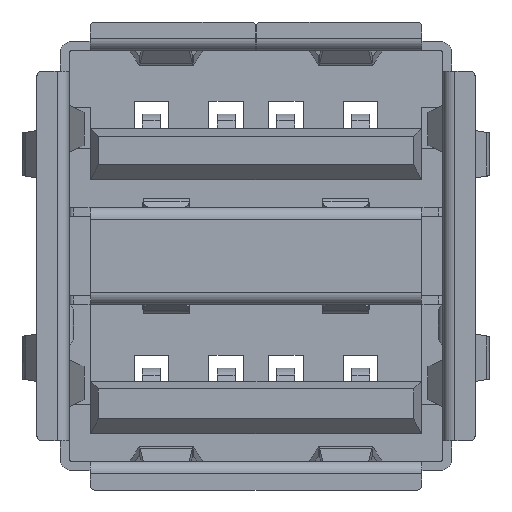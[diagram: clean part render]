
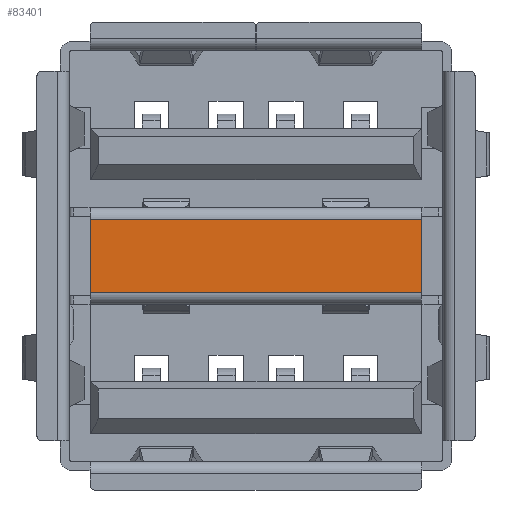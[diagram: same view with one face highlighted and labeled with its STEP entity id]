
A CAD part, front view. The second image highlights one B-rep face of the part: STEP entity #83401.
In plain terms, the highlighted planar face has unit normal (0, -1, 0).
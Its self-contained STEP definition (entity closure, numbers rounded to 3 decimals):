
#70532 = PLANE('',#70533);
#70533 = AXIS2_PLACEMENT_3D('',#70534,#70535,#70536);
#70534 = CARTESIAN_POINT('',(-5.525,-7.7,-1.325));
#70535 = DIRECTION('',(-1.,0.,0.));
#70536 = DIRECTION('',(0.,1.,0.));
#70560 = CYLINDRICAL_SURFACE('',#70561,0.4);
#70561 = AXIS2_PLACEMENT_3D('',#70562,#70563,#70564);
#70562 = CARTESIAN_POINT('',(-5.525,-7.6,1.225));
#70563 = DIRECTION('',(-1.,0.,0.));
#70564 = DIRECTION('',(0.,0.,-1.));
#70588 = PLANE('',#70589);
#70589 = AXIS2_PLACEMENT_3D('',#70590,#70591,#70592);
#70590 = CARTESIAN_POINT('',(5.525,-7.6,-1.225));
#70591 = DIRECTION('',(1.,0.,0.));
#70592 = DIRECTION('',(0.,1.,0.));
#74712 = VERTEX_POINT('',#74713);
#74713 = CARTESIAN_POINT('',(-5.525,-8.,-1.225));
#74732 = CYLINDRICAL_SURFACE('',#74733,0.4);
#74733 = AXIS2_PLACEMENT_3D('',#74734,#74735,#74736);
#74734 = CARTESIAN_POINT('',(-5.525,-7.6,-1.225));
#74735 = DIRECTION('',(-1.,0.,0.));
#74736 = DIRECTION('',(0.,0.,-1.));
#74744 = EDGE_CURVE('',#74745,#74712,#74747,.T.);
#74745 = VERTEX_POINT('',#74746);
#74746 = CARTESIAN_POINT('',(-5.525,-8.,1.225));
#74747 = SURFACE_CURVE('',#74748,(#74752,#74759),.PCURVE_S1.);
#74748 = LINE('',#74749,#74750);
#74749 = CARTESIAN_POINT('',(-5.525,-8.,1.325));
#74750 = VECTOR('',#74751,1.);
#74751 = DIRECTION('',(0.,0.,-1.));
#74752 = PCURVE('',#70532,#74753);
#74753 = DEFINITIONAL_REPRESENTATION('',(#74754),#74758);
#74754 = LINE('',#74755,#74756);
#74755 = CARTESIAN_POINT('',(-0.3,-2.65));
#74756 = VECTOR('',#74757,1.);
#74757 = DIRECTION('',(0.,1.));
#74758 = ( GEOMETRIC_REPRESENTATION_CONTEXT(2) 
PARAMETRIC_REPRESENTATION_CONTEXT() REPRESENTATION_CONTEXT('2D SPACE',''
  ) );
#74759 = PCURVE('',#74760,#74765);
#74760 = PLANE('',#74761);
#74761 = AXIS2_PLACEMENT_3D('',#74762,#74763,#74764);
#74762 = CARTESIAN_POINT('',(-5.525,-8.,1.325));
#74763 = DIRECTION('',(0.,-1.,0.));
#74764 = DIRECTION('',(0.,0.,-1.));
#74765 = DEFINITIONAL_REPRESENTATION('',(#74766),#74770);
#74766 = LINE('',#74767,#74768);
#74767 = CARTESIAN_POINT('',(0.,0.));
#74768 = VECTOR('',#74769,1.);
#74769 = DIRECTION('',(1.,0.));
#74770 = ( GEOMETRIC_REPRESENTATION_CONTEXT(2) 
PARAMETRIC_REPRESENTATION_CONTEXT() REPRESENTATION_CONTEXT('2D SPACE',''
  ) );
#80793 = VERTEX_POINT('',#80794);
#80794 = CARTESIAN_POINT('',(5.525,-8.,1.225));
#80816 = EDGE_CURVE('',#80793,#80817,#80819,.T.);
#80817 = VERTEX_POINT('',#80818);
#80818 = CARTESIAN_POINT('',(5.525,-8.,-1.225));
#80819 = SURFACE_CURVE('',#80820,(#80824,#80831),.PCURVE_S1.);
#80820 = LINE('',#80821,#80822);
#80821 = CARTESIAN_POINT('',(5.525,-8.,1.325));
#80822 = VECTOR('',#80823,1.);
#80823 = DIRECTION('',(0.,0.,-1.));
#80824 = PCURVE('',#70588,#80825);
#80825 = DEFINITIONAL_REPRESENTATION('',(#80826),#80830);
#80826 = LINE('',#80827,#80828);
#80827 = CARTESIAN_POINT('',(-0.4,2.55));
#80828 = VECTOR('',#80829,1.);
#80829 = DIRECTION('',(0.,-1.));
#80830 = ( GEOMETRIC_REPRESENTATION_CONTEXT(2) 
PARAMETRIC_REPRESENTATION_CONTEXT() REPRESENTATION_CONTEXT('2D SPACE',''
  ) );
#80831 = PCURVE('',#74760,#80832);
#80832 = DEFINITIONAL_REPRESENTATION('',(#80833),#80837);
#80833 = LINE('',#80834,#80835);
#80834 = CARTESIAN_POINT('',(0.,11.05));
#80835 = VECTOR('',#80836,1.);
#80836 = DIRECTION('',(1.,0.));
#80837 = ( GEOMETRIC_REPRESENTATION_CONTEXT(2) 
PARAMETRIC_REPRESENTATION_CONTEXT() REPRESENTATION_CONTEXT('2D SPACE',''
  ) );
#83332 = EDGE_CURVE('',#74712,#80817,#83333,.T.);
#83333 = SURFACE_CURVE('',#83334,(#83338,#83345),.PCURVE_S1.);
#83334 = LINE('',#83335,#83336);
#83335 = CARTESIAN_POINT('',(-5.525,-8.,-1.225));
#83336 = VECTOR('',#83337,1.);
#83337 = DIRECTION('',(1.,0.,0.));
#83338 = PCURVE('',#74732,#83339);
#83339 = DEFINITIONAL_REPRESENTATION('',(#83340),#83344);
#83340 = LINE('',#83341,#83342);
#83341 = CARTESIAN_POINT('',(1.571,0.));
#83342 = VECTOR('',#83343,1.);
#83343 = DIRECTION('',(0.,-1.));
#83344 = ( GEOMETRIC_REPRESENTATION_CONTEXT(2) 
PARAMETRIC_REPRESENTATION_CONTEXT() REPRESENTATION_CONTEXT('2D SPACE',''
  ) );
#83345 = PCURVE('',#74760,#83346);
#83346 = DEFINITIONAL_REPRESENTATION('',(#83347),#83351);
#83347 = LINE('',#83348,#83349);
#83348 = CARTESIAN_POINT('',(2.55,0.));
#83349 = VECTOR('',#83350,1.);
#83350 = DIRECTION('',(0.,1.));
#83351 = ( GEOMETRIC_REPRESENTATION_CONTEXT(2) 
PARAMETRIC_REPRESENTATION_CONTEXT() REPRESENTATION_CONTEXT('2D SPACE',''
  ) );
#83401 = ADVANCED_FACE('',(#83402),#74760,.T.);
#83402 = FACE_BOUND('',#83403,.T.);
#83403 = EDGE_LOOP('',(#83404,#83405,#83426,#83427));
#83404 = ORIENTED_EDGE('',*,*,#80816,.F.);
#83405 = ORIENTED_EDGE('',*,*,#83406,.F.);
#83406 = EDGE_CURVE('',#74745,#80793,#83407,.T.);
#83407 = SURFACE_CURVE('',#83408,(#83412,#83419),.PCURVE_S1.);
#83408 = LINE('',#83409,#83410);
#83409 = CARTESIAN_POINT('',(-5.525,-8.,1.225));
#83410 = VECTOR('',#83411,1.);
#83411 = DIRECTION('',(1.,0.,0.));
#83412 = PCURVE('',#74760,#83413);
#83413 = DEFINITIONAL_REPRESENTATION('',(#83414),#83418);
#83414 = LINE('',#83415,#83416);
#83415 = CARTESIAN_POINT('',(0.1,0.));
#83416 = VECTOR('',#83417,1.);
#83417 = DIRECTION('',(0.,1.));
#83418 = ( GEOMETRIC_REPRESENTATION_CONTEXT(2) 
PARAMETRIC_REPRESENTATION_CONTEXT() REPRESENTATION_CONTEXT('2D SPACE',''
  ) );
#83419 = PCURVE('',#70560,#83420);
#83420 = DEFINITIONAL_REPRESENTATION('',(#83421),#83425);
#83421 = LINE('',#83422,#83423);
#83422 = CARTESIAN_POINT('',(1.571,0.));
#83423 = VECTOR('',#83424,1.);
#83424 = DIRECTION('',(0.,-1.));
#83425 = ( GEOMETRIC_REPRESENTATION_CONTEXT(2) 
PARAMETRIC_REPRESENTATION_CONTEXT() REPRESENTATION_CONTEXT('2D SPACE',''
  ) );
#83426 = ORIENTED_EDGE('',*,*,#74744,.T.);
#83427 = ORIENTED_EDGE('',*,*,#83332,.T.);
